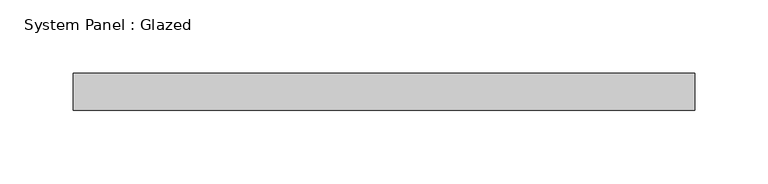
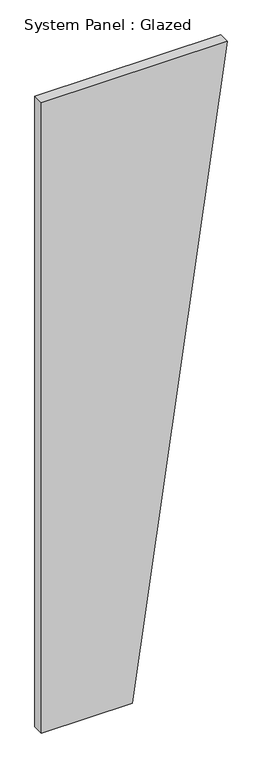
"""IFC4 building model written with IfcOpenShell, lengths in millimetres: plate geometry, System Panel : Glazed."""

from ifc_helpers import new_model, si_unit, frame, origin, place, context, project, spatial, polyline, outline, extrude, source, transform, mapped, element, save


def system_panel_glazed_9b5be9d6(model_context):
    return source(origin(), model_context, "Body", "SweptSolid", [
        extrude(outline(polyline([(0.0, -212.3628407), (0.0, -4.6825144), (1524.0, 212.3628407), (1524.0, -212.3628407), (0.0, -212.3628407)])), frame((0.0, 19.05, 0.0), z_axis=(0.0, 1.0, 0.0), x_axis=(0.0, 0.0, 1.0)), (0.0, 0.0, 1.0), 25.4),
    ])


if __name__ == "__main__":
    model = new_model("IFC4")
    model_context = context("Model", 3, world=origin())
    ifc_project = project(units=[si_unit("LENGTHUNIT", "METRE", prefix="MILLI")], contexts=[model_context])
    site = spatial("IfcSite", under=ifc_project)
    building = spatial("IfcBuilding", under=site)
    placement = place(None, origin())
    system_panel_glazed_shape = system_panel_glazed_9b5be9d6(model_context)
    element("IfcPlate", 1, ObjectType="System Panel : Glazed", at=placement, inside=building, context=model_context, shape_type="MappedRepresentation", body=[
        mapped(system_panel_glazed_shape, transform((0.0, 0.0, 0.0), x_axis=(1.0, 0.0, 0.0), y_axis=(0.0, 1.0, 0.0), z_axis=(0.0, 0.0, 1.0))),
    ])
    save(model, "model.ifc")
